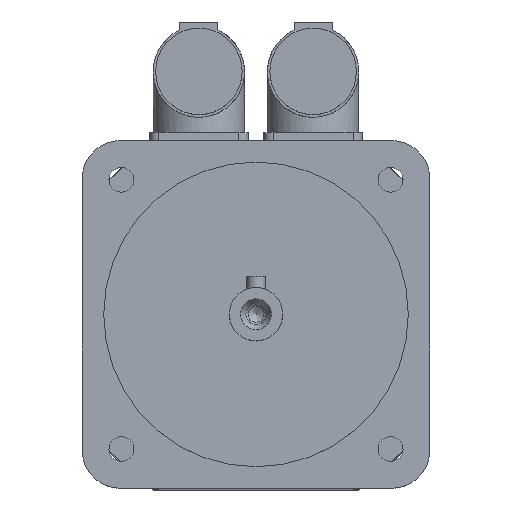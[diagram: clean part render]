
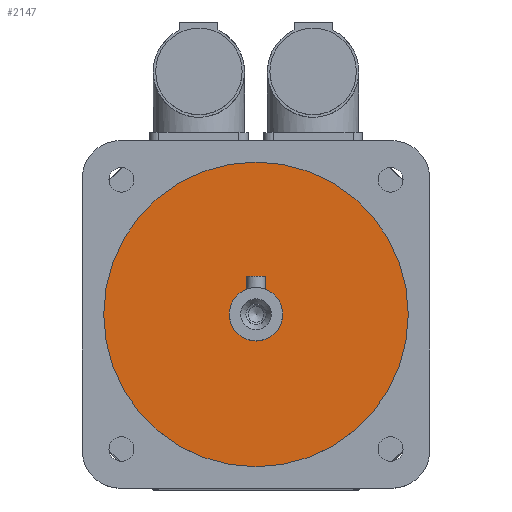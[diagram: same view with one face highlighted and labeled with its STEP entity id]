
A CAD part, top view. The second image highlights one B-rep face of the part: STEP entity #2147.
In plain terms, the highlighted planar face has unit normal (0, 0, 1).
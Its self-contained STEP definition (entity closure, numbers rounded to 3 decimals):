
#364=PLANE('',#2300);
#497=FACE_BOUND('',#679,.T.);
#533=FACE_OUTER_BOUND('',#678,.T.);
#678=EDGE_LOOP('',(#1534));
#679=EDGE_LOOP('',(#1535));
#830=CIRCLE('',#2299,7.);
#831=CIRCLE('',#2301,40.);
#978=VERTEX_POINT('',#3374);
#979=VERTEX_POINT('',#3377);
#1194=EDGE_CURVE('',#978,#978,#830,.T.);
#1195=EDGE_CURVE('',#979,#979,#831,.T.);
#1534=ORIENTED_EDGE('',*,*,#1195,.F.);
#1535=ORIENTED_EDGE('',*,*,#1194,.T.);
#2147=ADVANCED_FACE('',(#533,#497),#364,.T.);
#2299=AXIS2_PLACEMENT_3D('',#3375,#2624,#2625);
#2300=AXIS2_PLACEMENT_3D('',#3376,#2626,#2627);
#2301=AXIS2_PLACEMENT_3D('',#3378,#2628,#2629);
#2624=DIRECTION('center_axis',(0.,0.,-1.));
#2625=DIRECTION('ref_axis',(1.,0.,0.));
#2626=DIRECTION('center_axis',(0.,0.,1.));
#2627=DIRECTION('ref_axis',(1.,0.,0.));
#2628=DIRECTION('center_axis',(0.,0.,-1.));
#2629=DIRECTION('ref_axis',(1.,0.,0.));
#3374=CARTESIAN_POINT('',(0.,7.,228.));
#3375=CARTESIAN_POINT('Origin',(0.,0.,228.));
#3376=CARTESIAN_POINT('Origin',(0.,40.,228.));
#3377=CARTESIAN_POINT('',(0.,40.,228.));
#3378=CARTESIAN_POINT('Origin',(0.,0.,228.));
